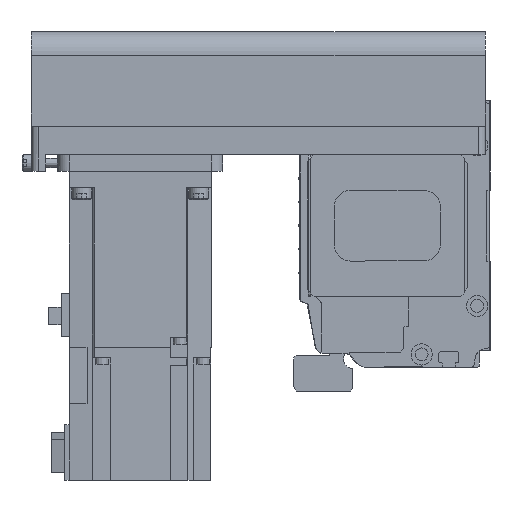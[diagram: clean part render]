
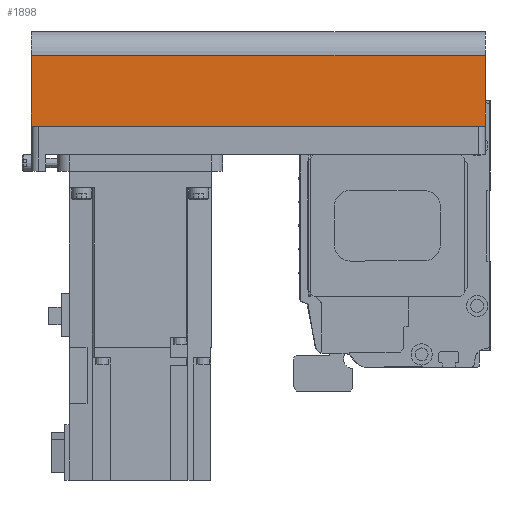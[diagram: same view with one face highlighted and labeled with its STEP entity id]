
A CAD part, left-side view. The second image highlights one B-rep face of the part: STEP entity #1898.
In plain terms, the highlighted planar face has unit normal (-1, 0, 0) as drawn and (0, 1, 0) by its records, which use the part's own axes.
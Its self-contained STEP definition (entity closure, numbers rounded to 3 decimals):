
#1898 = ADVANCED_FACE( '', ( #4120 ), #4121, .T. );
#4120 = FACE_OUTER_BOUND( '', #6656, .T. );
#4121 = PLANE( '', #6657 );
#6656 = EDGE_LOOP( '', ( #11675, #11676, #11677, #11678 ) );
#6657 = AXIS2_PLACEMENT_3D( '', #11679, #11680, #11681 );
#11675 = ORIENTED_EDGE( '', *, *, #14457, .F. );
#11676 = ORIENTED_EDGE( '', *, *, #14988, .F. );
#11677 = ORIENTED_EDGE( '', *, *, #16183, .T. );
#11678 = ORIENTED_EDGE( '', *, *, #14761, .T. );
#11679 = CARTESIAN_POINT( '', ( -192., 40., -42. ) );
#11680 = DIRECTION( '', ( 0., 1., 0. ) );
#11681 = DIRECTION( '', ( 0., 0., 1. ) );
#14457 = EDGE_CURVE( '', #17220, #16903, #17221, .T. );
#14761 = EDGE_CURVE( '', #16885, #16903, #17747, .T. );
#14988 = EDGE_CURVE( '', #18123, #17220, #18125, .T. );
#16183 = EDGE_CURVE( '', #18123, #16885, #19876, .T. );
#16885 = VERTEX_POINT( '', #20719 );
#16903 = VERTEX_POINT( '', #20742 );
#17220 = VERTEX_POINT( '', #21144 );
#17221 = LINE( '', #21145, #21146 );
#17747 = LINE( '', #21852, #21853 );
#18123 = VERTEX_POINT( '', #22356 );
#18125 = LINE( '', #22358, #22359 );
#19876 = LINE( '', #24693, #24694 );
#20719 = CARTESIAN_POINT( '', ( -192., 40., -12.1 ) );
#20742 = CARTESIAN_POINT( '', ( 0., 40., -12.1 ) );
#21144 = CARTESIAN_POINT( '', ( 0., 40., -42. ) );
#21145 = CARTESIAN_POINT( '', ( 0., 40., -42. ) );
#21146 = VECTOR( '', #25876, 1000. );
#21852 = CARTESIAN_POINT( '', ( -192., 40., -12.1 ) );
#21853 = VECTOR( '', #26261, 1000. );
#22356 = CARTESIAN_POINT( '', ( -192., 40., -42. ) );
#22358 = CARTESIAN_POINT( '', ( -192., 40., -42. ) );
#22359 = VECTOR( '', #26521, 1000. );
#24693 = CARTESIAN_POINT( '', ( -192., 40., -42. ) );
#24694 = VECTOR( '', #27972, 1000. );
#25876 = DIRECTION( '', ( 0., 0., 1. ) );
#26261 = DIRECTION( '', ( 1., 0., 0. ) );
#26521 = DIRECTION( '', ( 1., 0., 0. ) );
#27972 = DIRECTION( '', ( 0., 0., 1. ) );
